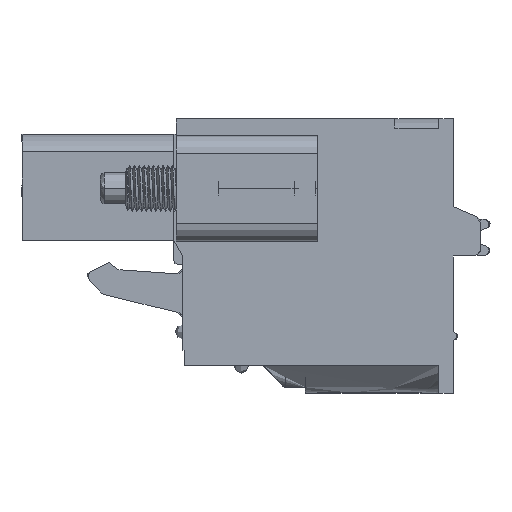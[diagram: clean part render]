
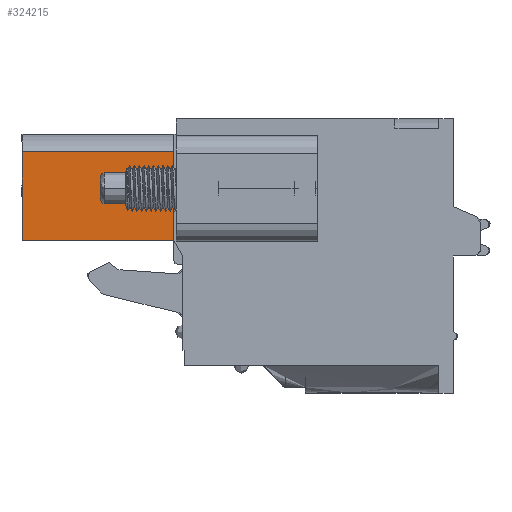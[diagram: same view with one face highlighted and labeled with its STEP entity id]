
A CAD part, left-side view. The second image highlights one B-rep face of the part: STEP entity #324215.
In plain terms, the highlighted free-form (B-spline) face has degree [1, 1] with [2, 2] control points.
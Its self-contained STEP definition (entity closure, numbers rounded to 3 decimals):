
#324215 = ADVANCED_FACE('',(#324216),#324229,.T.);
#324216 = FACE_BOUND('',#324217,.T.);
#324217 = EDGE_LOOP('',(#324218,#324262,#324276,#324290));
#324218 = ORIENTED_EDGE('',*,*,#324219,.F.);
#324219 = EDGE_CURVE('',#324220,#324222,#324224,.T.);
#324220 = VERTEX_POINT('',#324221);
#324221 = CARTESIAN_POINT('',(-122.22,15.3,1.85));
#324222 = VERTEX_POINT('',#324223);
#324223 = CARTESIAN_POINT('',(-122.22,15.3,-3.));
#324224 = SURFACE_CURVE('',#324225,(#324228),.PCURVE_S1.);
#324225 = B_SPLINE_CURVE_WITH_KNOTS('',1,(#324226,#324227),
  .UNSPECIFIED.,.F.,.F.,(2,2),(0.,1.),.PIECEWISE_BEZIER_KNOTS.);
#324226 = CARTESIAN_POINT('',(-122.22,15.3,1.85));
#324227 = CARTESIAN_POINT('',(-122.22,15.3,-3.));
#324228 = PCURVE('',#324229,#324234);
#324229 = B_SPLINE_SURFACE_WITH_KNOTS('',1,1,(
    (#324230,#324231)
    ,(#324232,#324233
    )),.UNSPECIFIED.,.F.,.F.,.F.,(2,2),(2,2),(0.,1.),(0.,1.),
  .PIECEWISE_BEZIER_KNOTS.);
#324230 = CARTESIAN_POINT('',(-122.22,38.562,17.762));
#324231 = CARTESIAN_POINT('',(-122.22,8.638,17.762));
#324232 = CARTESIAN_POINT('',(-122.22,38.562,-12.162));
#324233 = CARTESIAN_POINT('',(-122.22,8.638,-12.162));
#324234 = DEFINITIONAL_REPRESENTATION('',(#324235),#324261);
#324235 = B_SPLINE_CURVE_WITH_KNOTS('',3,(#324236,#324237,#324238,
    #324239,#324240,#324241,#324242,#324243,#324244,#324245,#324246,
    #324247,#324248,#324249,#324250,#324251,#324252,#324253,#324254,
    #324255,#324256,#324257,#324258,#324259,#324260),.UNSPECIFIED.,.F.,
  .F.,(4,1,1,1,1,1,1,1,1,1,1,1,1,1,1,1,1,1,1,1,1,1,4),(0.,
    0.045,0.091,0.136,
    0.182,0.227,0.273,0.318,
    0.364,0.409,0.455,0.5,0.545,
    0.591,0.636,0.682,0.727,
    0.773,0.818,0.864,0.909,
    0.955,1.),.QUASI_UNIFORM_KNOTS.);
#324236 = CARTESIAN_POINT('',(0.532,0.777));
#324237 = CARTESIAN_POINT('',(0.534,0.777));
#324238 = CARTESIAN_POINT('',(0.539,0.777));
#324239 = CARTESIAN_POINT('',(0.546,0.777));
#324240 = CARTESIAN_POINT('',(0.554,0.777));
#324241 = CARTESIAN_POINT('',(0.561,0.777));
#324242 = CARTESIAN_POINT('',(0.569,0.777));
#324243 = CARTESIAN_POINT('',(0.576,0.777));
#324244 = CARTESIAN_POINT('',(0.583,0.777));
#324245 = CARTESIAN_POINT('',(0.591,0.777));
#324246 = CARTESIAN_POINT('',(0.598,0.777));
#324247 = CARTESIAN_POINT('',(0.605,0.777));
#324248 = CARTESIAN_POINT('',(0.613,0.777));
#324249 = CARTESIAN_POINT('',(0.62,0.777));
#324250 = CARTESIAN_POINT('',(0.628,0.777));
#324251 = CARTESIAN_POINT('',(0.635,0.777));
#324252 = CARTESIAN_POINT('',(0.642,0.777));
#324253 = CARTESIAN_POINT('',(0.65,0.777));
#324254 = CARTESIAN_POINT('',(0.657,0.777));
#324255 = CARTESIAN_POINT('',(0.664,0.777));
#324256 = CARTESIAN_POINT('',(0.672,0.777));
#324257 = CARTESIAN_POINT('',(0.679,0.777));
#324258 = CARTESIAN_POINT('',(0.686,0.777));
#324259 = CARTESIAN_POINT('',(0.691,0.777));
#324260 = CARTESIAN_POINT('',(0.694,0.777));
#324261 = ( GEOMETRIC_REPRESENTATION_CONTEXT(2) 
PARAMETRIC_REPRESENTATION_CONTEXT() REPRESENTATION_CONTEXT('2D SPACE',''
  ) );
#324262 = ORIENTED_EDGE('',*,*,#324263,.F.);
#324263 = EDGE_CURVE('',#324264,#324220,#324266,.T.);
#324264 = VERTEX_POINT('',#324265);
#324265 = CARTESIAN_POINT('',(-122.22,23.6,1.85));
#324266 = SURFACE_CURVE('',#324267,(#324270),.PCURVE_S1.);
#324267 = B_SPLINE_CURVE_WITH_KNOTS('',1,(#324268,#324269),
  .UNSPECIFIED.,.F.,.F.,(2,2),(0.,1.),.PIECEWISE_BEZIER_KNOTS.);
#324268 = CARTESIAN_POINT('',(-122.22,23.6,1.85));
#324269 = CARTESIAN_POINT('',(-122.22,15.3,1.85));
#324270 = PCURVE('',#324229,#324271);
#324271 = DEFINITIONAL_REPRESENTATION('',(#324272),#324275);
#324272 = B_SPLINE_CURVE_WITH_KNOTS('',1,(#324273,#324274),
  .UNSPECIFIED.,.F.,.F.,(2,2),(0.,1.),.PIECEWISE_BEZIER_KNOTS.);
#324273 = CARTESIAN_POINT('',(0.532,0.5));
#324274 = CARTESIAN_POINT('',(0.532,0.777));
#324275 = ( GEOMETRIC_REPRESENTATION_CONTEXT(2) 
PARAMETRIC_REPRESENTATION_CONTEXT() REPRESENTATION_CONTEXT('2D SPACE',''
  ) );
#324276 = ORIENTED_EDGE('',*,*,#324277,.F.);
#324277 = EDGE_CURVE('',#324278,#324264,#324280,.T.);
#324278 = VERTEX_POINT('',#324279);
#324279 = CARTESIAN_POINT('',(-122.22,23.6,-3.));
#324280 = SURFACE_CURVE('',#324281,(#324284),.PCURVE_S1.);
#324281 = B_SPLINE_CURVE_WITH_KNOTS('',1,(#324282,#324283),
  .UNSPECIFIED.,.F.,.F.,(2,2),(0.,1.),.PIECEWISE_BEZIER_KNOTS.);
#324282 = CARTESIAN_POINT('',(-122.22,23.6,-3.));
#324283 = CARTESIAN_POINT('',(-122.22,23.6,1.85));
#324284 = PCURVE('',#324229,#324285);
#324285 = DEFINITIONAL_REPRESENTATION('',(#324286),#324289);
#324286 = B_SPLINE_CURVE_WITH_KNOTS('',1,(#324287,#324288),
  .UNSPECIFIED.,.F.,.F.,(2,2),(0.,1.),.PIECEWISE_BEZIER_KNOTS.);
#324287 = CARTESIAN_POINT('',(0.694,0.5));
#324288 = CARTESIAN_POINT('',(0.532,0.5));
#324289 = ( GEOMETRIC_REPRESENTATION_CONTEXT(2) 
PARAMETRIC_REPRESENTATION_CONTEXT() REPRESENTATION_CONTEXT('2D SPACE',''
  ) );
#324290 = ORIENTED_EDGE('',*,*,#324291,.F.);
#324291 = EDGE_CURVE('',#324222,#324278,#324292,.T.);
#324292 = SURFACE_CURVE('',#324293,(#324296),.PCURVE_S1.);
#324293 = B_SPLINE_CURVE_WITH_KNOTS('',1,(#324294,#324295),
  .UNSPECIFIED.,.F.,.F.,(2,2),(0.,1.),.PIECEWISE_BEZIER_KNOTS.);
#324294 = CARTESIAN_POINT('',(-122.22,15.3,-3.));
#324295 = CARTESIAN_POINT('',(-122.22,23.6,-3.));
#324296 = PCURVE('',#324229,#324297);
#324297 = DEFINITIONAL_REPRESENTATION('',(#324298),#324301);
#324298 = B_SPLINE_CURVE_WITH_KNOTS('',1,(#324299,#324300),
  .UNSPECIFIED.,.F.,.F.,(2,2),(0.,1.),.PIECEWISE_BEZIER_KNOTS.);
#324299 = CARTESIAN_POINT('',(0.694,0.777));
#324300 = CARTESIAN_POINT('',(0.694,0.5));
#324301 = ( GEOMETRIC_REPRESENTATION_CONTEXT(2) 
PARAMETRIC_REPRESENTATION_CONTEXT() REPRESENTATION_CONTEXT('2D SPACE',''
  ) );
